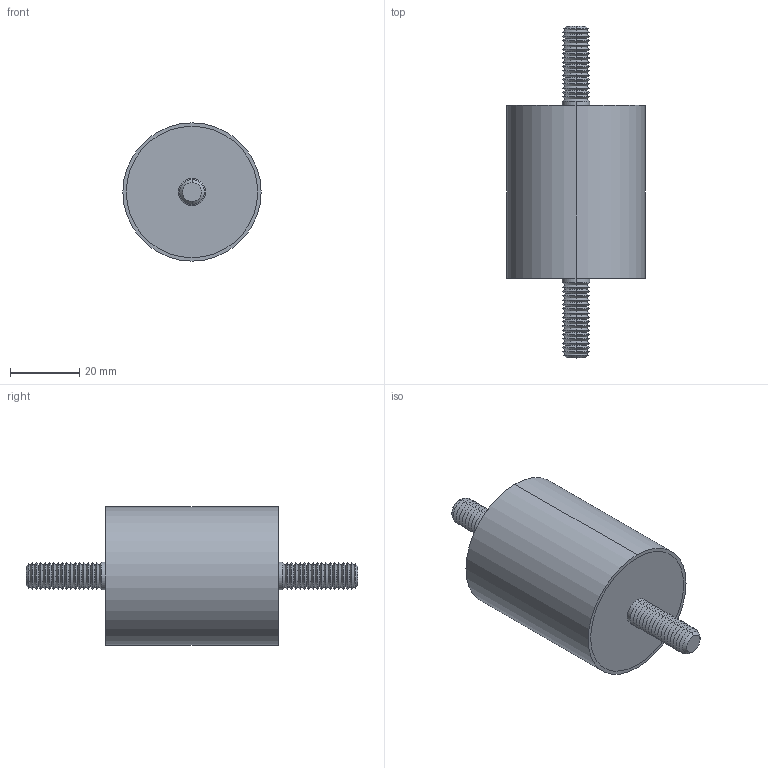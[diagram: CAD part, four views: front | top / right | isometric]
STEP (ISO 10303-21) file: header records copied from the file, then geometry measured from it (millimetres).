
FILE_DESCRIPTION (( 'STEP AP203' ), '1' );
FILE_NAME ('61040.W0407.step', '2019-09-24T22:36:10', ( '' ), ( '' ), 'SwSTEP 2.0', 'SolidWorks 2017', '' );
FILE_SCHEMA (( 'CONFIG_CONTROL_DESIGN' ));
Length unit declared in the file: millimetre
Products named in the file (4): Part1_61040.W0407; Part3_61040.W0407; Part2_61040.W0407; 61040.W0407
Assembly tree (3 placements, depth 2):
  61040.W0407
    Part1_61040.W0407
    Part2_61040.W0407
    Part3_61040.W0407
Bounding box: 40 x 96 x 40 mm (x, y, z)
Volume: 64591.5 mm3; surface area: 16162.2 mm2
Topology: 3 solids, 3 shells, 164 faces, 322 edges, 168 vertices
Faces by surface type: cone 140, cylinder 14, plane 10
Entity records: 4508 total; most frequent: DIRECTION 830, CARTESIAN_POINT 660, ORIENTED_EDGE 644, AXIS2_PLACEMENT_3D 338, EDGE_CURVE 322, VERTEX_POINT 168, EDGE_LOOP 168, CIRCLE 168
